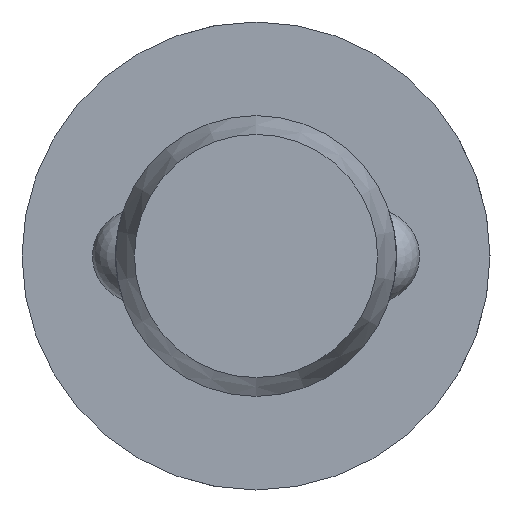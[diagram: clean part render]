
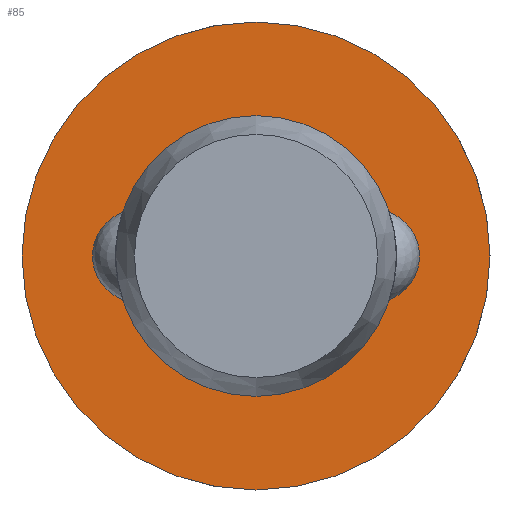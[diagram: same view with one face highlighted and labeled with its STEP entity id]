
A CAD part, left-side view. The second image highlights one B-rep face of the part: STEP entity #85.
In plain terms, the highlighted planar face has unit normal (-1, 0, 0).
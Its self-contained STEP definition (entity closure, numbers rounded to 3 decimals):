
#85 = ADVANCED_FACE( '', ( #131, #132 ), #133, .F. );
#131 = FACE_OUTER_BOUND( '', #204, .T. );
#132 = FACE_BOUND( '', #205, .T. );
#133 = PLANE( '', #206 );
#204 = EDGE_LOOP( '', ( #322 ) );
#205 = EDGE_LOOP( '', ( #323 ) );
#206 = AXIS2_PLACEMENT_3D( '', #324, #325, #326 );
#322 = ORIENTED_EDGE( '', *, *, #470, .F. );
#323 = ORIENTED_EDGE( '', *, *, #467, .T. );
#324 = CARTESIAN_POINT( '', ( 77., 3., 0. ) );
#325 = DIRECTION( '', ( 1., 0., 0. ) );
#326 = DIRECTION( '', ( 0., 0., -1. ) );
#467 = EDGE_CURVE( '', #541, #541, #542, .T. );
#470 = EDGE_CURVE( '', #547, #547, #548, .T. );
#541 = VERTEX_POINT( '', #749 );
#542 = CIRCLE( '', #750, 3. );
#547 = VERTEX_POINT( '', #817 );
#548 = CIRCLE( '', #818, 5. );
#749 = CARTESIAN_POINT( '', ( 77., 0., -3. ) );
#750 = AXIS2_PLACEMENT_3D( '', #897, #898, #899 );
#817 = CARTESIAN_POINT( '', ( 77., 0., -5. ) );
#818 = AXIS2_PLACEMENT_3D( '', #900, #901, #902 );
#897 = CARTESIAN_POINT( '', ( 77., 0., 0. ) );
#898 = DIRECTION( '', ( 1., 0., 0. ) );
#899 = DIRECTION( '', ( 0., 0., -1. ) );
#900 = CARTESIAN_POINT( '', ( 77., 0., 0. ) );
#901 = DIRECTION( '', ( 1., 0., 0. ) );
#902 = DIRECTION( '', ( 0., 0., -1. ) );
